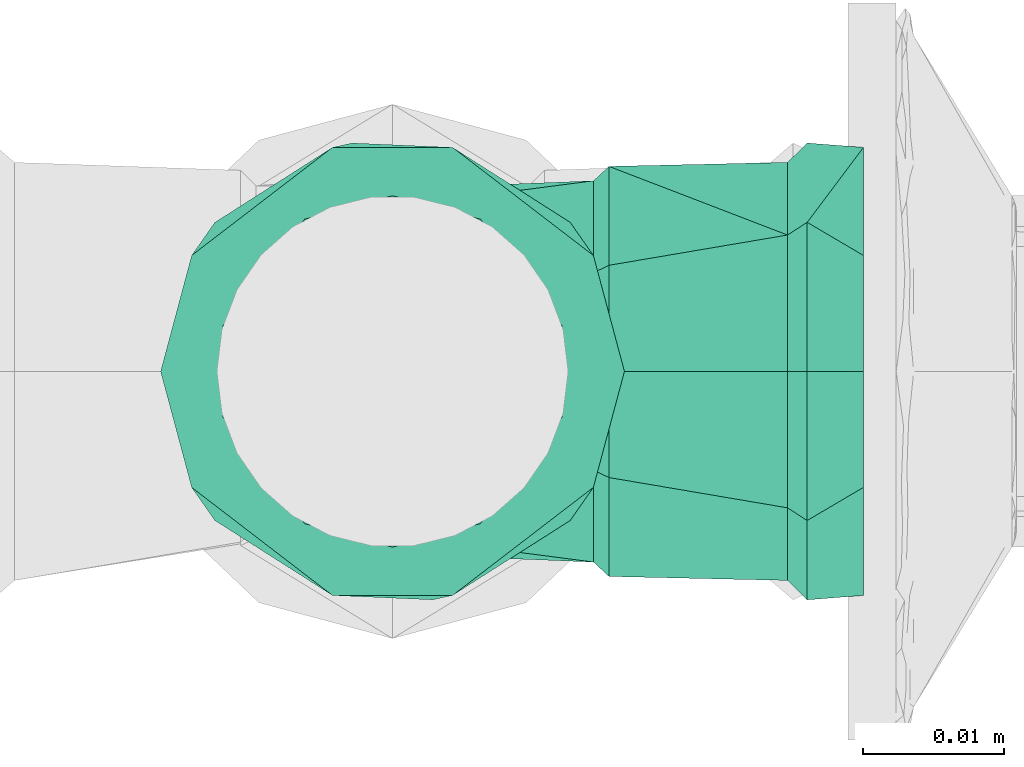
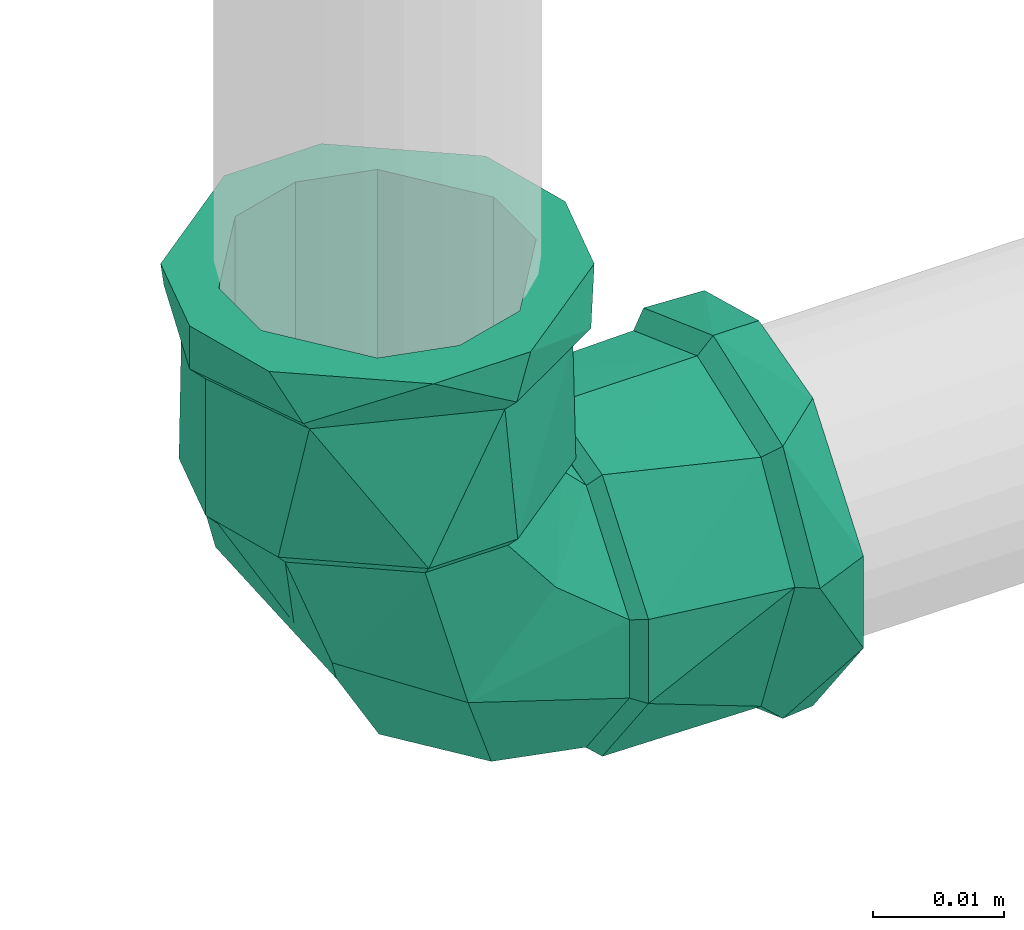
# One storey, part 303 of 589: 1 flow fitting.
"""IFC2X3 building model written with IfcOpenShell, lengths in millimetres."""

from ifc_helpers import new_model, entity, si_unit, converted_unit, derived_unit, direction, frame, origin, place, context, subcontext, project, spatial, faceted_brep, source, transform, mapped, material, type_object, type_shapes, element, save


model = new_model("IFC2X3")

# Units and contexts
model_context = context("Model", 3, precision=0.01, world=origin(), true_north=direction((6.123031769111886e-17, 1.0)))
body_context = subcontext(model_context, "Body", "Model", "MODEL_VIEW")
ifc_project = project(units=[si_unit("LENGTHUNIT", "METRE", prefix="MILLI"), si_unit("AREAUNIT", "SQUARE_METRE"), si_unit("VOLUMEUNIT", "CUBIC_METRE"), converted_unit("PLANEANGLEUNIT", "DEGREE", entity("IfcRatioMeasure", 0.017453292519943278), si_unit("PLANEANGLEUNIT", "RADIAN"), dimensions=[0, 0, 0, 0, 0, 0, 0]), si_unit("MASSUNIT", "GRAM", prefix="KILO"), derived_unit("MASSDENSITYUNIT", [(si_unit("MASSUNIT", "GRAM", prefix="KILO"), 1), (si_unit("LENGTHUNIT", "METRE"), -3)]), derived_unit("IONCONCENTRATIONUNIT", [(si_unit("MASSUNIT", "GRAM", prefix="KILO"), 1), (si_unit("LENGTHUNIT", "METRE"), -3)]), derived_unit("MOMENTOFINERTIAUNIT", [(si_unit("LENGTHUNIT", "METRE"), 4)]), si_unit("TIMEUNIT", "SECOND"), si_unit("FREQUENCYUNIT", "HERTZ"), si_unit("THERMODYNAMICTEMPERATUREUNIT", "DEGREE_CELSIUS"), derived_unit("THERMALTRANSMITTANCEUNIT", [(si_unit("MASSUNIT", "GRAM", prefix="KILO"), 1), (si_unit("THERMODYNAMICTEMPERATUREUNIT", "KELVIN"), -1), (si_unit("TIMEUNIT", "SECOND"), -3)]), derived_unit("THERMALCONDUCTANCEUNIT", [(si_unit("MASSUNIT", "GRAM", prefix="KILO"), 1), (si_unit("THERMODYNAMICTEMPERATUREUNIT", "KELVIN"), -1), (si_unit("TIMEUNIT", "SECOND"), -3), (si_unit("LENGTHUNIT", "METRE"), 1)]), derived_unit("VOLUMETRICFLOWRATEUNIT", [(si_unit("LENGTHUNIT", "METRE"), 3), (si_unit("TIMEUNIT", "SECOND"), -1)]), derived_unit("MASSFLOWRATEUNIT", [(si_unit("MASSUNIT", "GRAM", prefix="KILO"), 1), (si_unit("TIMEUNIT", "SECOND"), -1)]), derived_unit("ROTATIONALFREQUENCYUNIT", [(si_unit("TIMEUNIT", "SECOND"), -1)]), si_unit("ELECTRICCURRENTUNIT", "AMPERE"), si_unit("ELECTRICVOLTAGEUNIT", "VOLT"), si_unit("POWERUNIT", "WATT"), si_unit("FORCEUNIT", "NEWTON", prefix="KILO"), si_unit("ILLUMINANCEUNIT", "LUX"), si_unit("LUMINOUSFLUXUNIT", "LUMEN"), si_unit("LUMINOUSINTENSITYUNIT", "CANDELA"), derived_unit("USERDEFINED", [(si_unit("MASSUNIT", "GRAM", prefix="KILO"), -1), (si_unit("LENGTHUNIT", "METRE"), -2), (si_unit("TIMEUNIT", "SECOND"), 3), (si_unit("LUMINOUSFLUXUNIT", "LUMEN"), 1)]), derived_unit("USERDEFINED", [(si_unit("MASSUNIT", "GRAM", prefix="KILO"), 1), (si_unit("TIMEUNIT", "SECOND"), -3), (si_unit("LENGTHUNIT", "METRE"), 3), (si_unit("ELECTRICCURRENTUNIT", "AMPERE"), -2)]), derived_unit("SOUNDPOWERUNIT", [(si_unit("MASSUNIT", "GRAM", prefix="KILO"), 1), (si_unit("TIMEUNIT", "SECOND"), -3), (si_unit("LENGTHUNIT", "METRE"), 2)]), derived_unit("SOUNDPRESSUREUNIT", [(si_unit("MASSUNIT", "GRAM", prefix="KILO"), 1), (si_unit("LENGTHUNIT", "METRE"), -1), (si_unit("TIMEUNIT", "SECOND"), -2)]), derived_unit("LINEARVELOCITYUNIT", [(si_unit("LENGTHUNIT", "METRE"), 1), (si_unit("TIMEUNIT", "SECOND"), -1)]), si_unit("PRESSUREUNIT", "PASCAL"), derived_unit("USERDEFINED", [(si_unit("MASSUNIT", "GRAM", prefix="KILO"), 1), (si_unit("LENGTHUNIT", "METRE"), -2), (si_unit("TIMEUNIT", "SECOND"), -2)]), derived_unit("LINEARFORCEUNIT", [(si_unit("MASSUNIT", "GRAM", prefix="KILO"), 1), (si_unit("TIMEUNIT", "SECOND"), -2)]), derived_unit("PLANARFORCEUNIT", [(si_unit("MASSUNIT", "GRAM", prefix="KILO"), 1), (si_unit("LENGTHUNIT", "METRE"), -1), (si_unit("TIMEUNIT", "SECOND"), -2)]), derived_unit("SPECIFICHEATCAPACITYUNIT", [(si_unit("THERMODYNAMICTEMPERATUREUNIT", "KELVIN"), -1), (si_unit("LENGTHUNIT", "METRE"), 2), (si_unit("TIMEUNIT", "SECOND"), -2)]), derived_unit("HEATINGVALUEUNIT", [(si_unit("LENGTHUNIT", "METRE"), 2), (si_unit("TIMEUNIT", "SECOND"), -2)]), derived_unit("VAPORPERMEABILITYUNIT", [(si_unit("LENGTHUNIT", "METRE"), -1), (si_unit("TIMEUNIT", "SECOND"), 1)]), derived_unit("DYNAMICVISCOSITYUNIT", [(si_unit("MASSUNIT", "GRAM", prefix="KILO"), 1), (si_unit("TIMEUNIT", "SECOND"), -1), (si_unit("LENGTHUNIT", "METRE"), -1)]), derived_unit("THERMALEXPANSIONCOEFFICIENTUNIT", [(si_unit("THERMODYNAMICTEMPERATUREUNIT", "KELVIN"), -1)]), derived_unit("MODULUSOFELASTICITYUNIT", [(si_unit("MASSUNIT", "GRAM", prefix="KILO"), 1), (si_unit("LENGTHUNIT", "METRE"), -1), (si_unit("TIMEUNIT", "SECOND"), -2)]), derived_unit("ISOTHERMALMOISTURECAPACITYUNIT", [(si_unit("LENGTHUNIT", "METRE"), 3), (si_unit("MASSUNIT", "GRAM", prefix="KILO"), -1)]), derived_unit("MOISTUREDIFFUSIVITYUNIT", [(si_unit("TIMEUNIT", "SECOND"), -1), (si_unit("LENGTHUNIT", "METRE"), 2)])], contexts=[model_context])

# Site, building, storey
site_placement = place(None, origin())
site = spatial("IfcSite", under=ifc_project, at=site_placement, Name="Default", CompositionType="ELEMENT")
building_placement = place(site_placement, origin())
building = spatial("IfcBuilding", under=site, at=building_placement, CompositionType="ELEMENT")
storey_placement = place(building_placement, frame((0.0, 0.0, 100.0)))
storey = spatial("IfcBuildingStorey", under=building, at=storey_placement, Name="TÉRREO", CompositionType="ELEMENT", Elevation=100.0)

# Flow fitting
ifc_material = material(Name="PVC Marrom")
pipe_fitting_type = type_object("IfcPipeFittingType", Name="PVC Marrom Soldável_Joelho 45°_90°_Rodrigo MEP:Joelho", PredefinedType="NOTDEFINED", material=ifc_material)
shared_shape = source(origin(), body_context, "Body", "Brep", [
    faceted_brep([(3.908167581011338, 15.40000000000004, 14.585479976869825), (13.076983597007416, 15.40000000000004, 7.549999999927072), (15.099999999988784, 15.40000000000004, 0.0), (13.076983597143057, 15.40000000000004, -7.55000000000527), (3.9081675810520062, 15.40000000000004, -14.585479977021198), (-3.9081675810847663, 15.40000000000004, -14.585479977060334), (-13.076983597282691, 15.40000000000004, -7.550000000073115), (-15.100000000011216, 15.40000000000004, 0.0), (-13.076983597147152, 15.40000000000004, 7.549999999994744), (-3.908167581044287, 15.40000000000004, 14.585479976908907), (-3.633819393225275, 14.30000000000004, 13.561598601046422), (-12.158996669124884, 14.30000000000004, 7.0199999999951), (-14.040000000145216, 14.30000000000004, 0.0), (-12.158996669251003, 14.30000000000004, -7.020000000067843), (-3.6338193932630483, 14.30000000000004, -13.561598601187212), (3.6338193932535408, 14.30000000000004, -13.561598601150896), (12.158996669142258, 14.30000000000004, -7.020000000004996), (14.039999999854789, 14.30000000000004, 0.0), (12.158996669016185, 14.30000000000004, 7.0199999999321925), (3.6338193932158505, 14.30000000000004, 13.561598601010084)], [[[0, 1, 2, 3, 4, 5, 6, 7, 8, 9]], [[10, 11, 12, 13, 14, 15, 16, 17, 18, 19]], [[3, 17, 16]], [[4, 3, 16, 15]], [[3, 2, 17]], [[15, 14, 5, 4]], [[6, 5, 14, 13]], [[7, 13, 12]], [[7, 6, 13]], [[8, 12, 11]], [[9, 8, 11, 10]], [[8, 7, 12]], [[10, 19, 0, 9]], [[1, 0, 19, 18]], [[2, 18, 17]], [[2, 1, 18]]]),
    faceted_brep([(-15.399999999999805, 3.908167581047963, 14.585479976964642), (-15.399999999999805, 13.076983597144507, 7.549999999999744), (-15.399999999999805, 15.100000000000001, 0.0), (-15.399999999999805, 13.076983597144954, -7.54999999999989), (-15.399999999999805, 3.9081675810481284, -14.58547997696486), (-15.399999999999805, -3.9081675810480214, -14.585479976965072), (-15.399999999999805, -13.0769835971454, -7.550000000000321), (-15.399999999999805, -15.099999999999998, 0.0), (-15.399999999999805, -13.076983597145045, 7.550000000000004), (-15.399999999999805, -3.908167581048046, 14.585479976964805), (-14.299999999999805, 12.158996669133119, 7.019999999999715), (-14.299999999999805, 3.6338193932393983, 13.561598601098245), (-14.299999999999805, -3.633819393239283, 13.56159860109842), (-14.299999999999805, -12.15899666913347, 7.020000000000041), (-14.299999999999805, -14.040000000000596, 0.0), (-14.299999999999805, -12.158996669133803, -7.020000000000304), (-14.299999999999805, -3.63381939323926, -13.561598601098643), (-14.299999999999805, 3.6338193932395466, -13.56159860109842), (-14.299999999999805, 12.158996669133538, -7.019999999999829), (-14.299999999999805, 14.03999999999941, 0.0)], [[[0, 1, 2, 3, 4, 5, 6, 7, 8, 9]], [[10, 11, 12, 13, 14, 15, 16, 17, 18, 19]], [[3, 2, 19, 18]], [[4, 3, 18, 17]], [[17, 16, 5, 4]], [[6, 5, 16, 15]], [[7, 6, 15, 14]], [[8, 7, 14, 13]], [[9, 8, 13, 12]], [[12, 11, 0, 9]], [[1, 0, 11, 10]], [[2, 1, 10, 19]]]),
    faceted_brep([(-33.4999999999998, -4.2705142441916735, -15.937776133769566), (-33.4999999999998, -6.250000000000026, -10.825317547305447), (-33.4999999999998, 0.0, -12.5), (-33.4999999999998, -14.289419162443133, -8.25000000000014), (-33.4999999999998, 4.270514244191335, -15.937776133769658), (-33.4999999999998, -12.074072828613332, -3.23523806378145), (-33.4999999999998, -16.499999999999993, 0.0), (-33.4999999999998, -12.074072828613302, 3.2352380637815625), (-33.4999999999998, -14.289419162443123, 8.249999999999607), (-33.4999999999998, -6.249999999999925, 10.825317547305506), (-33.4999999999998, -4.27051424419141, 15.937776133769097), (-33.4999999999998, 0.0, 12.5), (-33.4999999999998, 4.270514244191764, 15.937776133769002), (-33.4999999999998, 6.249999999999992, 10.825317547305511), (-33.4999999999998, 14.28941916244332, 8.249999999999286), (-33.4999999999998, 12.074072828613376, 3.2352380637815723), (-33.4999999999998, 16.500000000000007, 0.0), (-33.4999999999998, 12.074072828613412, -3.235238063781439), (-33.4999999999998, 14.289419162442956, -8.250000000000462), (-33.4999999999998, 6.250000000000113, -10.82531754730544), (-29.499999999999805, 16.5, 0.0), (-29.500000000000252, 12.639142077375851, 10.606700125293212), (-29.50000000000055, 2.8633833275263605, 16.249647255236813), (-29.50000000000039, -12.64180232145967, 10.603529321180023), (-29.499999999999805, -16.499999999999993, 0.0), (-29.500000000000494, -4.889209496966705, 13.426588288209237), (-29.49999999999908, -12.641802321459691, -10.603529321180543), (-29.49999999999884, -2.8674593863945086, -16.24892847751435), (-29.499999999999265, 12.639142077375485, -10.606700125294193), (-29.499999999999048, 4.885841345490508, -13.427814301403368), (-28.099999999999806, -15.099999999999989, 0.0), (-28.10000000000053, -11.56916454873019, 9.703835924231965), (-28.100000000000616, -4.474367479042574, 12.287362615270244), (-28.1000000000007, 2.6204295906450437, 14.870889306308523), (-28.100000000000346, 11.566730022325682, 9.706737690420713), (-28.09999999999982, 15.099999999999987, 0.0), (-28.099999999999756, 11.566730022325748, -9.706737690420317), (-28.09999999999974, 4.4712851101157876, -12.28848460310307), (-28.09999999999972, -2.6241598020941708, -14.870231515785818), (-28.09999999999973, -11.569164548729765, -9.703835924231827), (-15.399999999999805, 0.0, -12.5), (-15.399999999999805, -6.250000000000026, -10.825317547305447), (-15.399999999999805, -3.908167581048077, -14.585479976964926), (-15.399999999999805, 3.9081675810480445, -14.585479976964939), (-15.399999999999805, 6.250000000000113, -10.82531754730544), (-15.399999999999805, -13.076983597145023, -7.549999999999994), (-15.399999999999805, -12.074072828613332, -3.23523806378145), (-15.399999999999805, -15.099999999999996, 0.0), (-15.399999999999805, -12.074072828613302, 3.2352380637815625), (-15.399999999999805, -13.076983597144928, 7.550000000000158), (-15.399999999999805, -6.249999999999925, 10.825317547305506), (-15.399999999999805, -3.9081675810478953, 14.585479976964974), (-15.399999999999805, 0.0, 12.5), (-15.399999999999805, 3.9081675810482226, 14.58547997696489), (-15.399999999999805, 6.249999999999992, 10.825317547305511), (-15.399999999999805, 13.076983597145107, 7.549999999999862), (-15.399999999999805, 12.074072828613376, 3.2352380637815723), (-15.399999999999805, 15.100000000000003, 0.0), (-15.399999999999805, 12.074072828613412, -3.235238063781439), (-15.399999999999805, 13.076983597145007, -7.550000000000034)], [[[0, 1, 2]], [[1, 0, 3]], [[2, 4, 0]], [[3, 5, 1]], [[3, 6, 5]], [[5, 6, 7]], [[8, 7, 6]], [[7, 8, 9]], [[10, 9, 8]], [[9, 10, 11]], [[11, 10, 12]], [[12, 13, 11]], [[14, 13, 12]], [[13, 14, 15]], [[16, 15, 14]], [[16, 17, 15]], [[18, 17, 16]], [[19, 17, 18]], [[19, 18, 4]], [[4, 2, 19]], [[16, 14, 20]], [[14, 21, 20]], [[21, 14, 12]], [[21, 12, 22]], [[23, 10, 8]], [[24, 8, 6]], [[10, 23, 25, 22]], [[23, 8, 24]], [[10, 22, 12]], [[6, 3, 24]], [[3, 26, 24]], [[26, 3, 0]], [[26, 0, 27]], [[28, 4, 18]], [[20, 18, 16]], [[4, 28, 29, 27]], [[28, 18, 20]], [[4, 27, 0]], [[30, 31, 23, 24]], [[31, 32, 33, 22, 25, 23]], [[34, 35, 20, 21]], [[34, 21, 22, 33]], [[35, 36, 28, 20]], [[36, 37, 38, 27, 29, 28]], [[39, 30, 24, 26]], [[39, 26, 27, 38]], [[40, 41, 42]], [[42, 43, 40]], [[44, 40, 43]], [[45, 42, 41]], [[41, 46, 45]], [[46, 47, 45]], [[48, 47, 46]], [[47, 48, 49]], [[50, 49, 48]], [[49, 50, 51]], [[52, 51, 50]], [[53, 51, 52]], [[52, 54, 53]], [[53, 54, 55]], [[56, 55, 54]], [[55, 56, 57]], [[56, 58, 57]], [[59, 58, 44]], [[57, 58, 59]], [[43, 59, 44]], [[35, 34, 55]], [[35, 55, 57]], [[55, 34, 53]], [[34, 33, 53]], [[51, 33, 32, 31]], [[49, 31, 30]], [[31, 49, 51]], [[49, 30, 47]], [[33, 51, 53]], [[30, 39, 45]], [[30, 45, 47]], [[45, 39, 42]], [[39, 38, 42]], [[43, 38, 37, 36]], [[59, 36, 35]], [[36, 59, 43]], [[59, 35, 57]], [[38, 43, 42]], [[9, 11, 52, 50]], [[7, 9, 50, 48]], [[48, 46, 5, 7]], [[1, 5, 46, 41]], [[2, 1, 41, 40]], [[19, 2, 40, 44]], [[17, 19, 44, 58]], [[58, 56, 15, 17]], [[13, 15, 56, 54]], [[11, 13, 54, 52]]]),
    faceted_brep([(-14.299999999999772, -3.6338193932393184, -13.561598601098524), (-14.299999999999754, -12.158996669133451, -7.020000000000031), (-14.29999999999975, -14.039999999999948, 0.0), (-14.299999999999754, -12.158996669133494, 7.019999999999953), (-14.299999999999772, -3.6338193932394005, 13.561598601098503), (-14.299999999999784, 3.633819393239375, 13.561598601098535), (-14.299999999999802, 12.158996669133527, 7.0200000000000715), (-14.299999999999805, 14.04000000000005, 0.0), (-14.299999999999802, 12.158996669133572, -7.019999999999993), (-14.299999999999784, 3.63381939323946, -13.561598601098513), (3.633819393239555, 14.29999999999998, -13.561598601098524), (-3.633819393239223, 14.300000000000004, -13.561598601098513), (-12.158996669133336, 14.300000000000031, -7.019999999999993), (-14.039999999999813, 14.300000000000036, 0.0), (-12.158996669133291, 14.300000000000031, 7.0200000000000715), (-3.6338193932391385, 14.300000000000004, 13.561598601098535), (3.6338193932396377, 14.29999999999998, 13.561598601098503), (12.158996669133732, 14.299999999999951, 7.019999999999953), (14.040000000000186, 14.299999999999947, 0.0), (12.158996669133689, 14.299999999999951, -7.020000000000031), (-0.45476175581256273, 0.4547603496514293, 13.009299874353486), (-4.991226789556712, -9.102895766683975, 8.866254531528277), (-2.689013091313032, -7.336393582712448, 0.0), (3.7770734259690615, -3.6031967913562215, 0.0), (9.09033094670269, 4.905775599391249, 8.841582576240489), (10.243159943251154, 0.13000000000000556, 0.0), (-14.116152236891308, 14.116152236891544, 0.0), (-8.296884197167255, 8.29688403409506, 12.78130953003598), (-0.454761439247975, 0.45476027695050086, -13.009299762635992), (-8.296884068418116, 8.296883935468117, -12.78130960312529), (9.090330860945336, 4.90577564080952, -8.84158269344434), (-4.991226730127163, -9.10289574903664, -8.866254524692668)], [[[0, 1, 2, 3, 4, 5, 6, 7, 8, 9]], [[10, 11, 12, 13, 14, 15, 16, 17, 18, 19]], [[4, 20, 5]], [[21, 3, 22]], [[20, 4, 21]], [[21, 22, 23]], [[17, 24, 25]], [[26, 6, 14]], [[23, 20, 21]], [[26, 7, 6]], [[6, 5, 27]], [[3, 2, 22]], [[20, 23, 24]], [[25, 18, 17]], [[20, 27, 5]], [[16, 20, 24]], [[17, 16, 24]], [[6, 27, 14]], [[26, 14, 13]], [[21, 4, 3]], [[27, 15, 14]], [[27, 20, 15]], [[23, 25, 24]], [[15, 20, 16]], [[8, 7, 26]], [[28, 29, 11]], [[28, 10, 30]], [[8, 12, 29]], [[31, 22, 1]], [[31, 23, 22]], [[28, 9, 29]], [[19, 30, 10]], [[0, 28, 31]], [[1, 22, 2]], [[8, 26, 12]], [[12, 11, 29]], [[8, 29, 9]], [[31, 1, 0]], [[10, 28, 11]], [[30, 19, 25]], [[0, 9, 28]], [[19, 18, 25]], [[25, 23, 30]], [[23, 31, 28]], [[30, 23, 28]], [[12, 26, 13]]]),
    faceted_brep([(0.0, 15.40000000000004, -12.5), (-6.249999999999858, 15.40000000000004, -10.825317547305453), (-3.908167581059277, 15.40000000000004, -14.585479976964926), (3.9081675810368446, 15.40000000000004, -14.585479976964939), (6.250000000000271, 15.40000000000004, -10.82531754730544), (-13.076983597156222, 15.40000000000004, -7.549999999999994), (-12.07407282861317, 15.40000000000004, -3.235238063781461), (-15.100000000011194, 15.40000000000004, 0.0), (-12.074072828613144, 15.40000000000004, 3.2352380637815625), (-13.076983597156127, 15.40000000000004, 7.550000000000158), (-6.249999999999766, 15.40000000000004, 10.825317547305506), (-3.9081675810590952, 15.40000000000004, 14.585479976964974), (0.0, 15.40000000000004, 12.5), (3.9081675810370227, 15.40000000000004, 14.58547997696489), (6.250000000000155, 15.40000000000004, 10.825317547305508), (13.076983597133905, 15.40000000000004, 7.549999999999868), (12.074072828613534, 15.40000000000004, 3.2352380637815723), (15.099999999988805, 15.40000000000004, 0.0), (12.07407282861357, 15.40000000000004, -3.235238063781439), (13.07698359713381, 15.40000000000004, -7.550000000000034), (15.099999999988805, 28.10000000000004, 0.0), (11.56673002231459, 28.100000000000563, 9.706737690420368), (4.471285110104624, 28.10000000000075, 12.288484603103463), (-2.624159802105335, 28.100000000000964, 14.870231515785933), (-11.569164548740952, 28.10000000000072, 9.703835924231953), (-15.100000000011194, 28.10000000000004, 0.0), (-11.569164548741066, 28.10000000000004, -9.703835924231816), (-4.474367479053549, 28.10000000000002, -12.287362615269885), (2.6204295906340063, 28.099999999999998, -14.870889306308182), (11.566730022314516, 28.10000000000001, -9.706737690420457), (-12.639142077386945, 29.50000000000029, 10.606700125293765), (-16.50000000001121, 29.500000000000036, 0.0), (-2.8633833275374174, 29.50000000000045, 16.249647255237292), (12.641802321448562, 29.500000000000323, 10.603529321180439), (4.889209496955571, 29.500000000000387, 13.426588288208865), (16.499999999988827, 29.50000000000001, 0.0), (12.64180232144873, 29.500000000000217, -10.603529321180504), (2.867459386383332, 29.500000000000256, -16.24892847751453), (-12.639142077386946, 29.500000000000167, -10.606700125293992), (-4.885841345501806, 29.500000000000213, -13.427814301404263), (-4.270514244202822, 33.50000000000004, -15.937776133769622), (-6.249999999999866, 33.50000000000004, -10.825317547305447), (0.0, 33.50000000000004, -12.5), (-14.289419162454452, 33.50000000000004, -8.249999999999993), (4.270514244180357, 33.50000000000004, -15.937776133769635), (-12.074072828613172, 33.50000000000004, -3.23523806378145), (-16.50000000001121, 33.50000000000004, 0.0), (-12.074072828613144, 33.50000000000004, 3.2352380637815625), (-14.28941916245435, 33.50000000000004, 8.250000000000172), (-6.2499999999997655, 33.50000000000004, 10.825317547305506), (-4.270514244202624, 33.50000000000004, 15.937776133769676), (0.0, 33.50000000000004, 12.5), (4.270514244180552, 33.50000000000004, 15.937776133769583), (6.250000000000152, 33.50000000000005, 10.825317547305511), (14.289419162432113, 33.50000000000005, 8.249999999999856), (12.074072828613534, 33.50000000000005, 3.2352380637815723), (16.49999999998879, 33.50000000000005, 0.0), (12.07407282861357, 33.50000000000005, -3.235238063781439), (14.289419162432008, 33.50000000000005, -8.250000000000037), (6.250000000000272, 33.50000000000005, -10.82531754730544)], [[[0, 1, 2]], [[2, 3, 0]], [[4, 0, 3]], [[5, 2, 1]], [[1, 6, 5]], [[6, 7, 5]], [[8, 7, 6]], [[7, 8, 9]], [[10, 9, 8]], [[9, 10, 11]], [[12, 11, 10]], [[13, 11, 12]], [[12, 14, 13]], [[13, 14, 15]], [[16, 15, 14]], [[15, 16, 17]], [[16, 18, 17]], [[19, 18, 4]], [[17, 18, 19]], [[3, 19, 4]], [[20, 21, 15]], [[20, 15, 17]], [[15, 21, 13]], [[13, 21, 22, 23]], [[11, 23, 24]], [[9, 24, 25]], [[24, 9, 11]], [[9, 25, 7]], [[23, 11, 13]], [[25, 26, 5]], [[25, 5, 7]], [[5, 26, 2]], [[2, 26, 27, 28]], [[3, 28, 29]], [[19, 29, 20]], [[29, 19, 3]], [[19, 20, 17]], [[28, 3, 2]], [[24, 23, 30]], [[25, 24, 31]], [[31, 24, 30]], [[23, 32, 30]], [[21, 20, 33]], [[21, 33, 34]], [[22, 32, 23]], [[35, 33, 20]], [[32, 22, 34]], [[22, 21, 34]], [[20, 29, 36]], [[36, 35, 20]], [[37, 36, 29]], [[38, 39, 27]], [[29, 28, 37]], [[26, 25, 31]], [[38, 27, 26]], [[38, 26, 31]], [[28, 39, 37]], [[39, 28, 27]], [[40, 41, 42]], [[41, 40, 43]], [[42, 44, 40]], [[43, 45, 41]], [[43, 46, 45]], [[45, 46, 47]], [[48, 47, 46]], [[47, 48, 49]], [[50, 49, 48]], [[49, 50, 51]], [[51, 50, 52]], [[52, 53, 51]], [[54, 53, 52]], [[53, 54, 55]], [[56, 55, 54]], [[56, 57, 55]], [[58, 57, 56]], [[59, 57, 58]], [[59, 58, 44]], [[44, 42, 59]], [[56, 54, 35]], [[54, 33, 35]], [[33, 54, 52]], [[52, 32, 34, 33]], [[30, 50, 48]], [[31, 48, 46]], [[50, 30, 32]], [[30, 48, 31]], [[50, 32, 52]], [[46, 43, 31]], [[43, 38, 31]], [[38, 43, 40]], [[40, 37, 39, 38]], [[36, 44, 58]], [[35, 58, 56]], [[44, 36, 37]], [[36, 58, 35]], [[44, 37, 40]], [[49, 51, 12, 10]], [[47, 49, 10, 8]], [[8, 6, 45, 47]], [[41, 45, 6, 1]], [[42, 41, 1, 0]], [[59, 42, 0, 4]], [[57, 59, 4, 18]], [[18, 16, 55, 57]], [[53, 55, 16, 14]], [[51, 53, 14, 12]]]),
])
type_shapes(pipe_fitting_type, [shared_shape])
flow_fitting_placement = place(storey_placement, frame((-5455.984919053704, -14466.3278745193, -250.0), z_axis=(0.0, -1.0, 0.0), x_axis=(0.0, 0.0, -1.0)))
element("IfcFlowFitting", 1, at=flow_fitting_placement, inside=storey, type_object=pipe_fitting_type, material=ifc_material, Name="PVC Marrom Soldável_Joelho 45°_90°_Rodrigo MEP:Joelho", ObjectType="PVC Marrom Soldável_Joelho 45°_90°_Rodrigo MEP:Joelho", context=body_context, shape_type="MappedRepresentation", body=[
    mapped(shared_shape, transform((0.0, 0.0, 0.0), scale=1.0)),
])

save(model, "model.ifc")
